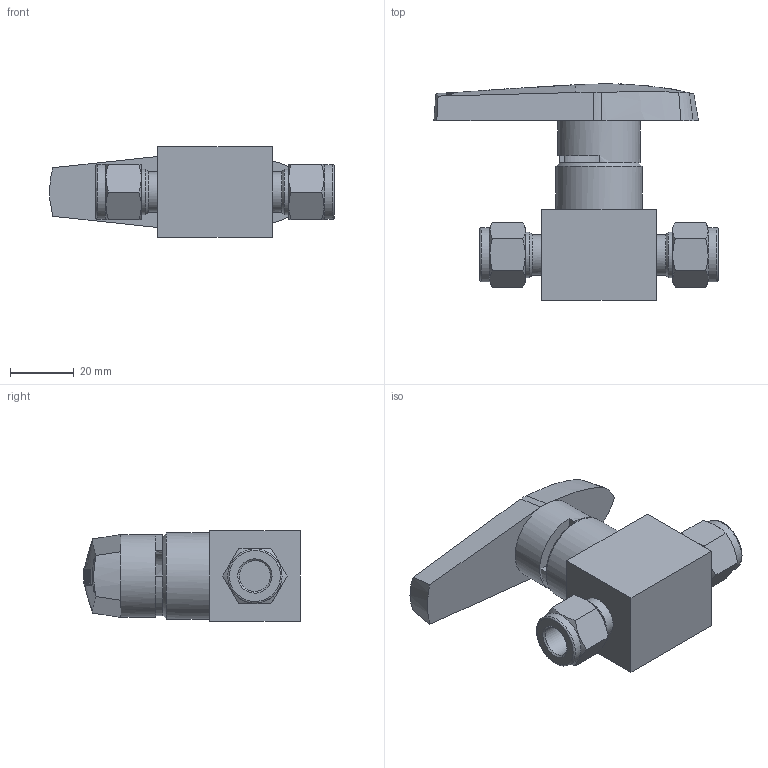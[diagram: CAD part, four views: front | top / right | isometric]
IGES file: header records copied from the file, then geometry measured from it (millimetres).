
Global section: file name: SBV120H3-S6-S316; native system: Autodesk Inventor 2016; preprocessor: unknown; author: 이승민,,11,0; organization: 20161215.102244; date: 20161216.191503; units: millimetre
Bounding box: 89.04 x 67.9 x 28.5 mm (x, y, z)
Volume: 59063.5 mm3; surface area: 17567.2 mm2
Topology: 2 solids, 2 shells, 307 faces, 825 edges, 550 vertices
Faces by surface type: bspline 307
